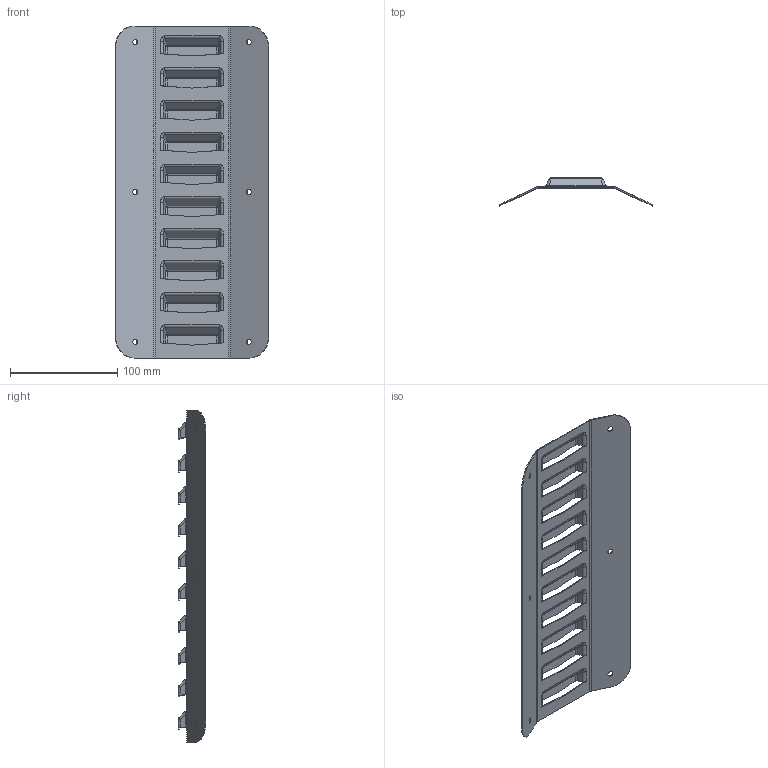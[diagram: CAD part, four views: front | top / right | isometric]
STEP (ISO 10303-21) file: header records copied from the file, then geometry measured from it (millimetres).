
FILE_DESCRIPTION(('CATIA V5 STEP Exchange'),'2;1');
FILE_NAME('G:\接单\17365990721_11245733\ge shan.stp','2022-12-04T15:20:01+00:00',('none'),('none'),'CATIA Version 5 Release 21 GA (IN-10)','CATIA V5 STEP AP203','none');
FILE_SCHEMA(('CONFIG_CONTROL_DESIGN'));
Length unit declared in the file: millimetre
Products named in the file (1): ge shan
Bounding box: 143.5 x 25.81 x 310 mm (x, y, z)
Volume: 48828.1 mm3; surface area: 99847.5 mm2
Topology: 1 solids, 1 shells, 410 faces, 1044 edges, 596 vertices
Faces by surface type: cylinder 200, plane 130, sphere 40, bspline 40
Entity records: 15339 total; most frequent: CARTESIAN_POINT 6870, ORIENTED_EDGE 2008, DIRECTION 1237, EDGE_CURVE 1004, VERTEX_POINT 596, AXIS2_PLACEMENT_3D 502, VECTOR 462, LINE 462
